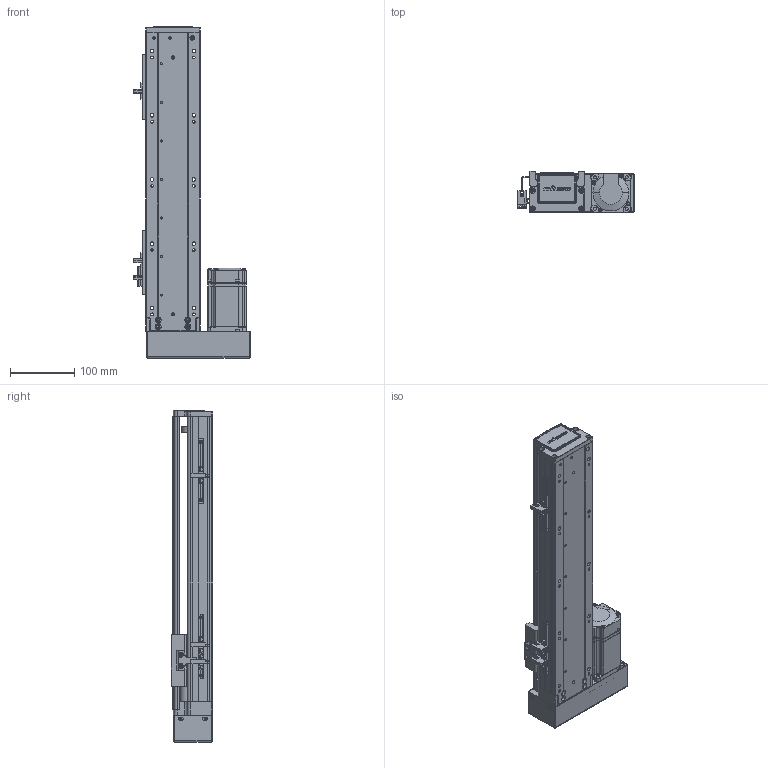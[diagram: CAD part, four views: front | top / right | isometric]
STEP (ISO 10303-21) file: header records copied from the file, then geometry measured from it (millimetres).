
FILE_DESCRIPTION (( 'STEP AP203' ), '1' );
FILE_NAME ('RY80-L1620-300-LK.SLDASM_300.step', '2021-02-20T07:16:23', ( '盈信电脑' ), ( '东莞市道滘镇水果街19号' ), 'SwSTEP 2.0', 'SolidWorks 2012', '' );
FILE_SCHEMA (( 'CONFIG_CONTROL_DESIGN' ));
Length unit declared in the file: millimetre
Products named in the file (15): 滅袉蝶18-24; RY80-L1620-300-LK.SLDASM_300; 覜茼ん672; RY80酘殏俋欶; RY80俋离覜茼え; T倰羞; 1; RY80酘莞萇儂假蚾啣; 侂狟200W萇儂; RY80-300蛌諉倰第奻裔啣-LK; RY80綴裔啣; 滅袉蝶18-10; RY80转接电机端支撑座; RY80-300蛌諉倰第菁釱-LK; RY80臏賑輸
Assembly tree (17 placements, depth 3):
  RY80-L1620-300-LK.SLDASM_300
    RY80-300蛌諉倰第菁釱-LK
    RY80臏賑輸
    RY80-300蛌諉倰第奻裔啣-LK
    RY80綴裔啣
    滅袉蝶18-10
    RY80转接电机端支撑座
    侂狟200W萇儂
      1
    RY80酘莞萇儂假蚾啣
    RY80酘殏俋欶
    覜茼ん672  x3
    T倰羞  x2
    RY80俋离覜茼え
    滅袉蝶18-24
Bounding box: 181.7 x 65 x 517 mm (x, y, z)
Volume: 1238665.8 mm3; surface area: 465030 mm2
Topology: 16 solids, 16 shells, 2110 faces, 5797 edges, 3753 vertices
Faces by surface type: plane 1163, cylinder 748, cone 137, bspline 62
Entity records: 66409 total; most frequent: CARTESIAN_POINT 16617, ORIENTED_EDGE 10282, DIRECTION 9626, EDGE_CURVE 5141, VERTEX_POINT 3369, VECTOR 3238, LINE 3238, AXIS2_PLACEMENT_3D 3194
